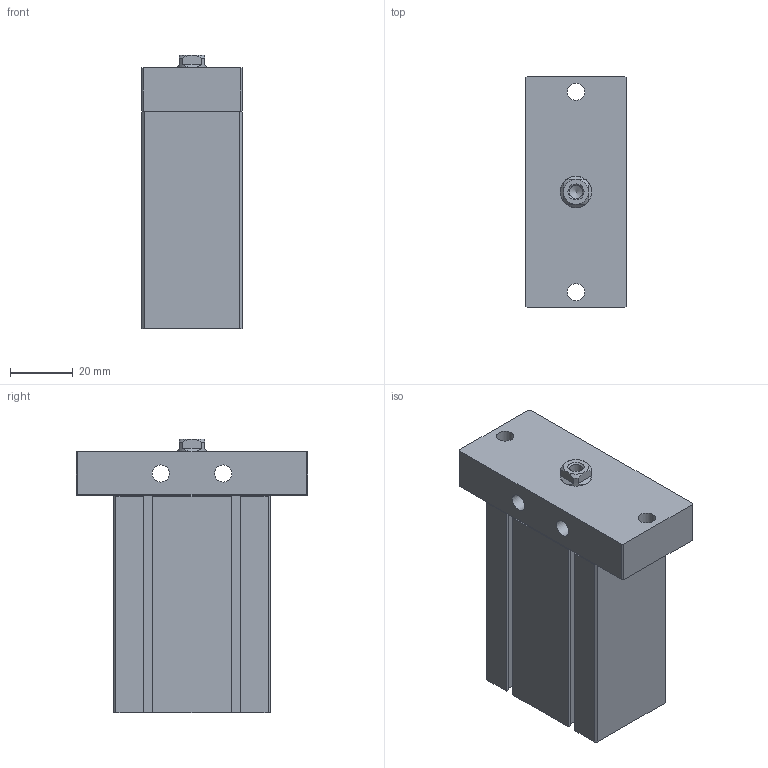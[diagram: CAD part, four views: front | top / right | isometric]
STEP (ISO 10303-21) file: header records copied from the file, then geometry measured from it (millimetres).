
FILE_DESCRIPTION((''),'2;1');
FILE_NAME('J:\3D電子目錄\氣缸\ND\ND\ND25-F\ND25x40-F.stp','2008-03-12T14:15:01',('66-2f-008'),(''),'Autodesk Inventor 11','Autodesk Inventor 11','');
FILE_SCHEMA(('AUTOMOTIVE_DESIGN { 1 0 10303 214 1 1 1 1 }'));
Length unit declared in the file: millimetre
Products named in the file (1): ND25-F
Bounding box: 32 x 74 x 87.5 mm (x, y, z)
Volume: 133061 mm3; surface area: 25908.7 mm2
Topology: 2 solids, 2 shells, 119 faces, 289 edges, 183 vertices
Faces by surface type: plane 79, bspline 16, cone 12, cylinder 11, torus 1
Full cylindrical faces by diameter (mm): 1.5 x2, 5.5 x2, 17 x1, 28 x1, 29.4 x1
Entity records: 3424 total; most frequent: CARTESIAN_POINT 784, DIRECTION 516, ORIENTED_EDGE 510, EDGE_CURVE 255, VECTOR 186, LINE 186, VERTEX_POINT 177, AXIS2_PLACEMENT_3D 165
